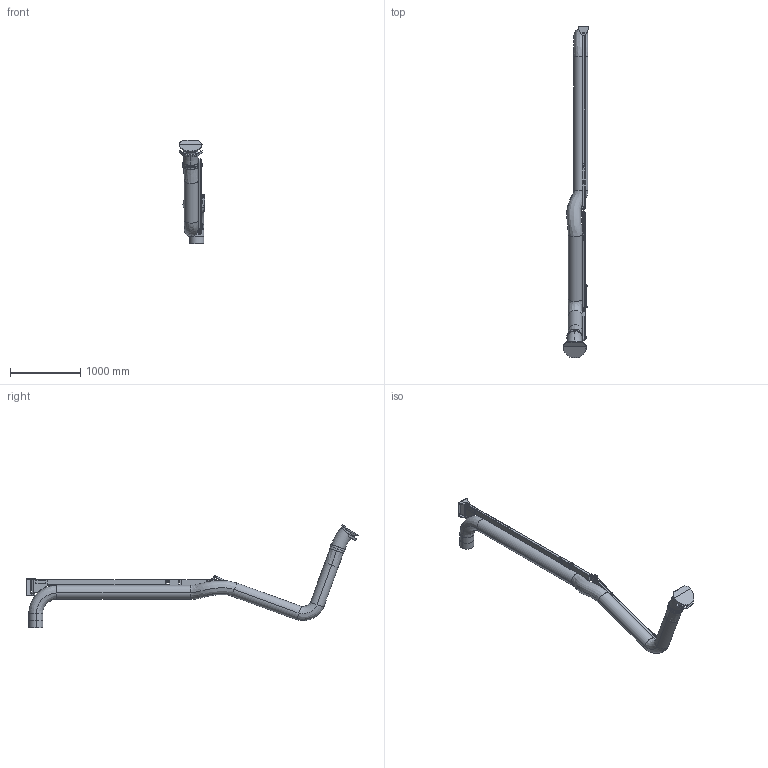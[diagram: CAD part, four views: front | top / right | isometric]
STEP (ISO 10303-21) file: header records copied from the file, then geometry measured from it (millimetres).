
FILE_DESCRIPTION((''),'2;1');
FILE_NAME('PR5000-200','2018-10-01T',('Gustav Stenberg'),(''),'CREO PARAMETRIC BY PTC INC, 2016130','CREO PARAMETRIC BY PTC INC, 2016130','');
FILE_SCHEMA(('AUTOMOTIVE_DESIGN { 1 0 10303 214 1 1 1 1 }'));
Length unit declared in the file: millimetre
Products named in the file (58): 100-6348-01; 100-6301-02; 100-6305-2; 100-6300-03; 100-6348; G_Z_PLATE; 100-6309-1; 100-6309-3; 100-6309; G_PR_TUBE_WALL; 100-6301-01; 100-6301-03; 100186; 100-6308-01; 100-6308-02; 100-6308-3; 100183; 100-6308; 100064; 102683; 100-5506_L_LIGHT; 100-5506_R_LIGHT; 100-5506; 100-5404-L_LIGHT; 100-5404-R_LIGHT; 100-5404; 100-5914; 100-5913; 100-5915; 135085; 102679; 100-5512-L_LIGHT; 100-512-R_LIGHT; 100-5512; 122219; 102715; 100-5911; 100-5518; 100-6305-1; 100-6305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
Assembly tree (66 placements, depth 5):
  PR5000-200
    100064
      100-6348
        100-6348-01
        100-6301-02
        100-6305-2
        100-6300-03
      100-6309
        G_Z_PLATE  x2
        100-6309-1
        100-6309-3
      100186
        G_PR_TUBE_WALL
        100-6301-01  x2
        100-6301-03
        100-6301-02
        100-6305-2
      100-6308
        100183
          100-6308-01
          100-6308-02
          100-6308-3
    134112
      135085
        102683
        100-5506
          100-5506_L_LIGHT
          100-5506_R_LIGHT
        100-5404
          100-5404-L_LIGHT
          100-5404-R_LIGHT
        100-5915  x2
          100-5914
          100-5913
      122219
        102679
        100-5512
          100-5512-L_LIGHT
          100-512-R_LIGHT
      100-5518
        102715
        100-5911
      100-6305
        100-6305-2
        100-6305-1
        100-5911
    100-5721_LIGHT
    100-6341-200
      100-5824B_LIGHT
      100-5862A_LIGHT
      100-5865A_LIGHT
      126057_AF1
    130368
      135584
      STAB_K4-D4
    102118-REF
    130371
      135588
      STAB_K4-D4
    102845-REF
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Bounding box: 367.02 x 4724.13 x 1466.4 mm (x, y, z)
Volume: 18679878.2 mm3; surface area: 9250715.7 mm2
Topology: 51 solids, 52 shells, 1213 faces, 2921 edges, 1808 vertices
Faces by surface type: plane 455, cylinder 407, cone 146, bspline 98, torus 77, sphere 26, extrusion 4
Entity records: 57389 total; most frequent: CARTESIAN_POINT 14086, DIRECTION 5253, ORIENTED_EDGE 4848, PROPERTY_DEFINITION 2470, REPRESENTATION 2432, PROPERTY_DEFINITION_REPRESENTATION 2432, EDGE_CURVE 2424, AXIS2_PLACEMENT_3D 2066
